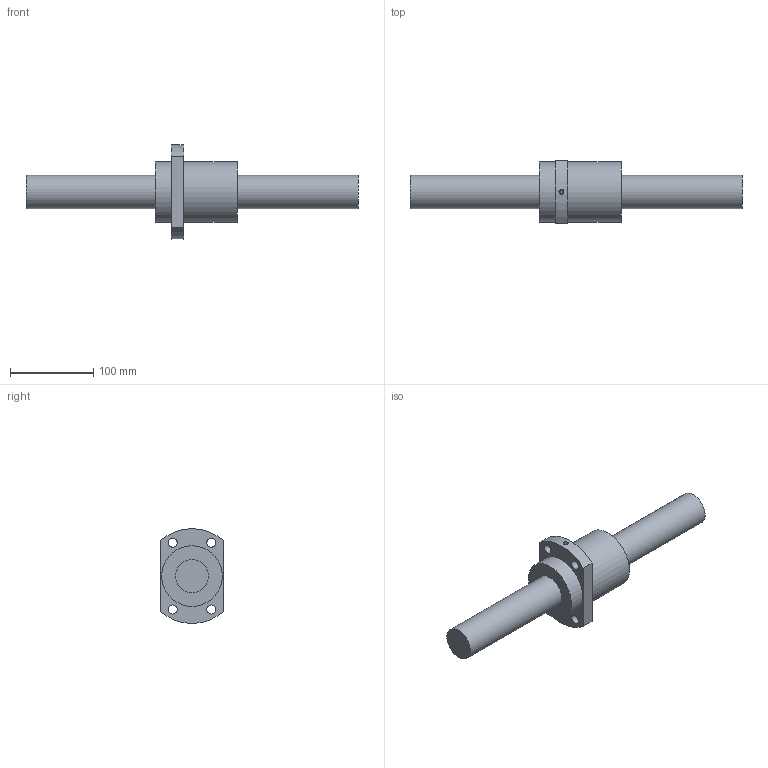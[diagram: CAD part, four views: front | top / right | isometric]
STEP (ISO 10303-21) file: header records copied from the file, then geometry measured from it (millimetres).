
FILE_DESCRIPTION((''),'2;1');
FILE_NAME('C:\Documents and Settings\土屋\My Documents\土屋移動用フォルダ\製品 (図面3D用)\カタログ用3D\ネジ\BSD-A\BSD4040A.stp','2018-12-15T09:53:24',('y'),(''),'Autodesk Inventor 11','Autodesk Inventor 11','');
FILE_SCHEMA(('AUTOMOTIVE_DESIGN { 1 0 10303 214 1 1 1 1 }'));
Length unit declared in the file: millimetre
Products named in the file (3): BSD4040A; BSD40ネジ軸
Assembly tree (2 placements, depth 2):
  BSD4040A
    BSD40ネジ軸
    BSD4040A
Bounding box: 400 x 75 x 113.82 mm (x, y, z)
Volume: 842102.8 mm3; surface area: 104350.6 mm2
Topology: 2 solids, 2 shells, 23 faces, 45 edges, 30 vertices
Faces by surface type: plane 10, cylinder 8, bspline 4, cone 1
Full cylindrical faces by diameter (mm): 3 x1, 6 x1, 40 x2, 73 x2
Entity records: 758 total; most frequent: CARTESIAN_POINT 226, DIRECTION 104, ORIENTED_EDGE 68, AXIS2_PLACEMENT_3D 48, EDGE_LOOP 48, EDGE_CURVE 34, VERTEX_POINT 30, FACE_BOUND 25
